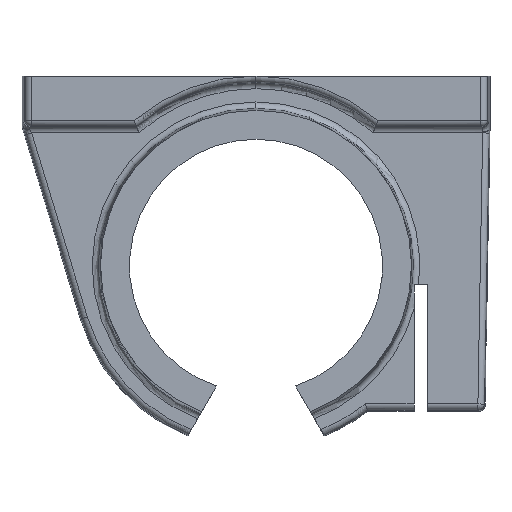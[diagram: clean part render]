
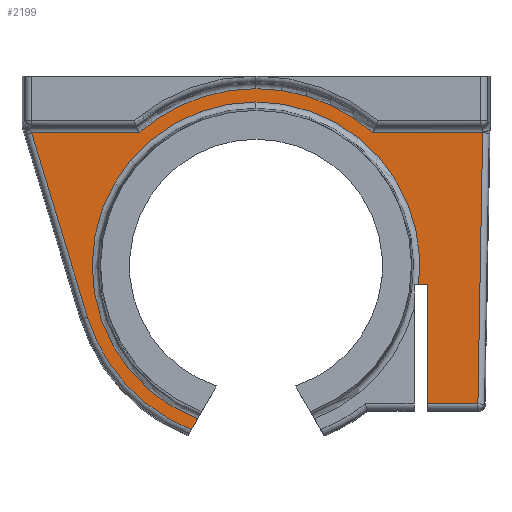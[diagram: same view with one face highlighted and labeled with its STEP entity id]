
A CAD part, front view. The second image highlights one B-rep face of the part: STEP entity #2199.
In plain terms, the highlighted planar face has unit normal (0, -1, 0).
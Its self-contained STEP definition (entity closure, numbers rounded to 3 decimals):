
#116 = CIRCLE ( 'NONE', #4380, 28. ) ;
#158 = DIRECTION ( 'NONE',  ( -1., 0., 0. ) ) ;
#161 = EDGE_CURVE ( 'NONE', #1258, #1753, #1177, .T. ) ;
#402 = ORIENTED_EDGE ( 'NONE', *, *, #4254, .T. ) ;
#422 = VECTOR ( 'NONE', #681, 1000. ) ;
#485 = DIRECTION ( 'NONE',  ( 0.017, 0., 1. ) ) ;
#495 = DIRECTION ( 'NONE',  ( 0., 1., 0. ) ) ;
#498 = VERTEX_POINT ( 'NONE', #2156 ) ;
#510 = CARTESIAN_POINT ( 'NONE',  ( 3.539, -10., -30.043 ) ) ;
#530 = ORIENTED_EDGE ( 'NONE', *, *, #1273, .T. ) ;
#561 = CARTESIAN_POINT ( 'NONE',  ( 0., -10., -28. ) ) ;
#681 = DIRECTION ( 'NONE',  ( -1., 0., 0. ) ) ;
#709 = AXIS2_PLACEMENT_3D ( 'NONE', #3072, #1979, #4512 ) ;
#715 = AXIS2_PLACEMENT_3D ( 'NONE', #3803, #2364, #3766 ) ;
#729 = LINE ( 'NONE', #1465, #2719 ) ;
#746 = EDGE_CURVE ( 'NONE', #498, #2853, #3226, .T. ) ;
#751 = CARTESIAN_POINT ( 'NONE',  ( 27.15, -10., -49.843 ) ) ;
#841 = LINE ( 'NONE', #3545, #4555 ) ;
#874 = ORIENTED_EDGE ( 'NONE', *, *, #161, .T. ) ;
#885 = ORIENTED_EDGE ( 'NONE', *, *, #1917, .T. ) ;
#1009 = CARTESIAN_POINT ( 'NONE',  ( -18.52, -10., -7. ) ) ;
#1031 = VERTEX_POINT ( 'NONE', #751 ) ;
#1052 = CARTESIAN_POINT ( 'NONE',  ( 18.52, -10., -7. ) ) ;
#1098 = EDGE_CURVE ( 'NONE', #1031, #1984, #729, .T. ) ;
#1139 = LINE ( 'NONE', #510, #2915 ) ;
#1146 = EDGE_CURVE ( 'NONE', #4170, #498, #1324, .T. ) ;
#1161 = DIRECTION ( 'NONE',  ( 0., 0., 1. ) ) ;
#1177 = LINE ( 'NONE', #1512, #2575 ) ;
#1205 = ORIENTED_EDGE ( 'NONE', *, *, #4471, .T. ) ;
#1222 = DIRECTION ( 'NONE',  ( 0., -1., 0. ) ) ;
#1258 = VERTEX_POINT ( 'NONE', #4419 ) ;
#1266 = DIRECTION ( 'NONE',  ( -1., 0., 0. ) ) ;
#1273 = EDGE_CURVE ( 'NONE', #4441, #2687, #3923, .T. ) ;
#1299 = CARTESIAN_POINT ( 'NONE',  ( -9.247, -10., -52.189 ) ) ;
#1301 = EDGE_CURVE ( 'NONE', #1753, #4441, #116, .T. ) ;
#1304 = VECTOR ( 'NONE', #485, 1000. ) ;
#1324 = CIRCLE ( 'NONE', #4186, 25.896 ) ;
#1329 = CARTESIAN_POINT ( 'NONE',  ( -10.232, -10., -53.895 ) ) ;
#1376 = VECTOR ( 'NONE', #1266, 1000. ) ;
#1462 = LINE ( 'NONE', #3839, #422 ) ;
#1465 = CARTESIAN_POINT ( 'NONE',  ( 36.043, -10., -49.843 ) ) ;
#1491 = VERTEX_POINT ( 'NONE', #1843 ) ;
#1512 = CARTESIAN_POINT ( 'NONE',  ( 18.894, -10., -7. ) ) ;
#1611 = VECTOR ( 'NONE', #4392, 1000. ) ;
#1621 = CARTESIAN_POINT ( 'NONE',  ( -35.486, -10., -7. ) ) ;
#1687 = DIRECTION ( 'NONE',  ( 0., -1., 0. ) ) ;
#1693 = VERTEX_POINT ( 'NONE', #1621 ) ;
#1753 = VERTEX_POINT ( 'NONE', #1052 ) ;
#1843 = CARTESIAN_POINT ( 'NONE',  ( -26.639, -10., -36.1 ) ) ;
#1865 = EDGE_CURVE ( 'NONE', #2687, #1693, #1462, .T. ) ;
#1872 = CARTESIAN_POINT ( 'NONE',  ( 0., -10., -28. ) ) ;
#1876 = ORIENTED_EDGE ( 'NONE', *, *, #1146, .T. ) ;
#1882 = CARTESIAN_POINT ( 'NONE',  ( 35.077, -10., -49.843 ) ) ;
#1917 = EDGE_CURVE ( 'NONE', #1984, #1258, #4028, .T. ) ;
#1951 = EDGE_CURVE ( 'NONE', #2226, #4170, #1139, .T. ) ;
#1961 = DIRECTION ( 'NONE',  ( 0., 0., 1. ) ) ;
#1979 = DIRECTION ( 'NONE',  ( 0., 1., 0. ) ) ;
#1984 = VERTEX_POINT ( 'NONE', #1882 ) ;
#2022 = DIRECTION ( 'NONE',  ( 0., 1., 0. ) ) ;
#2048 = CARTESIAN_POINT ( 'NONE',  ( 0., -10., -28. ) ) ;
#2156 = CARTESIAN_POINT ( 'NONE',  ( 0., -10., -2.104 ) ) ;
#2182 = ORIENTED_EDGE ( 'NONE', *, *, #1865, .T. ) ;
#2199 = ADVANCED_FACE ( 'NONE', ( #3092 ), #4470, .F. ) ;
#2226 = VERTEX_POINT ( 'NONE', #1329 ) ;
#2258 = CARTESIAN_POINT ( 'NONE',  ( 0., -10., -28. ) ) ;
#2364 = DIRECTION ( 'NONE',  ( 0., -1., 0. ) ) ;
#2573 = CARTESIAN_POINT ( 'NONE',  ( 35.833, -10., -6.554 ) ) ;
#2575 = VECTOR ( 'NONE', #158, 1000. ) ;
#2586 = CARTESIAN_POINT ( 'NONE',  ( -26.639, -10., -36.1 ) ) ;
#2657 = CARTESIAN_POINT ( 'NONE',  ( 27.15, -10., -31. ) ) ;
#2687 = VERTEX_POINT ( 'NONE', #1009 ) ;
#2719 = VECTOR ( 'NONE', #3531, 1000. ) ;
#2764 = ORIENTED_EDGE ( 'NONE', *, *, #746, .T. ) ;
#2853 = VERTEX_POINT ( 'NONE', #3209 ) ;
#2915 = VECTOR ( 'NONE', #3677, 1000. ) ;
#2953 = DIRECTION ( 'NONE',  ( 0., 0., 1. ) ) ;
#2975 = LINE ( 'NONE', #2586, #1611 ) ;
#2987 = LINE ( 'NONE', #4059, #1376 ) ;
#3001 = CIRCLE ( 'NONE', #715, 27.843 ) ;
#3047 = ORIENTED_EDGE ( 'NONE', *, *, #3133, .F. ) ;
#3072 = CARTESIAN_POINT ( 'NONE',  ( 0., -10., -28. ) ) ;
#3092 = FACE_OUTER_BOUND ( 'NONE', #3373, .T. ) ;
#3109 = ORIENTED_EDGE ( 'NONE', *, *, #1951, .T. ) ;
#3133 = EDGE_CURVE ( 'NONE', #3864, #2853, #2987, .T. ) ;
#3157 = AXIS2_PLACEMENT_3D ( 'NONE', #561, #2022, #1961 ) ;
#3209 = CARTESIAN_POINT ( 'NONE',  ( 25.721, -10., -31. ) ) ;
#3226 = CIRCLE ( 'NONE', #3157, 25.896 ) ;
#3254 = AXIS2_PLACEMENT_3D ( 'NONE', #2258, #1222, #4341 ) ;
#3373 = EDGE_LOOP ( 'NONE', ( #4424, #3565, #885, #874, #3418, #530, #2182, #1205, #402, #3109, #1876, #2764, #3047 ) ) ;
#3396 = EDGE_CURVE ( 'NONE', #1031, #3864, #841, .T. ) ;
#3418 = ORIENTED_EDGE ( 'NONE', *, *, #1301, .T. ) ;
#3531 = DIRECTION ( 'NONE',  ( 1., 0., 0. ) ) ;
#3545 = CARTESIAN_POINT ( 'NONE',  ( 27.15, -10., -28. ) ) ;
#3565 = ORIENTED_EDGE ( 'NONE', *, *, #1098, .T. ) ;
#3677 = DIRECTION ( 'NONE',  ( 0.5, 0., 0.866 ) ) ;
#3766 = DIRECTION ( 'NONE',  ( 0., 0., 1. ) ) ;
#3803 = CARTESIAN_POINT ( 'NONE',  ( 0., -10., -28. ) ) ;
#3839 = CARTESIAN_POINT ( 'NONE',  ( -36.815, -10., -7. ) ) ;
#3864 = VERTEX_POINT ( 'NONE', #2657 ) ;
#3923 = CIRCLE ( 'NONE', #3254, 28. ) ;
#4028 = LINE ( 'NONE', #2573, #1304 ) ;
#4059 = CARTESIAN_POINT ( 'NONE',  ( 0., -10., -31. ) ) ;
#4091 = CARTESIAN_POINT ( 'NONE',  ( 0., -10., 0. ) ) ;
#4170 = VERTEX_POINT ( 'NONE', #1299 ) ;
#4186 = AXIS2_PLACEMENT_3D ( 'NONE', #1872, #495, #2953 ) ;
#4254 = EDGE_CURVE ( 'NONE', #1491, #2226, #3001, .T. ) ;
#4341 = DIRECTION ( 'NONE',  ( 0., 0., 1. ) ) ;
#4380 = AXIS2_PLACEMENT_3D ( 'NONE', #2048, #1687, #4502 ) ;
#4392 = DIRECTION ( 'NONE',  ( 0.291, 0., -0.957 ) ) ;
#4419 = CARTESIAN_POINT ( 'NONE',  ( 35.825, -10., -7. ) ) ;
#4424 = ORIENTED_EDGE ( 'NONE', *, *, #3396, .F. ) ;
#4441 = VERTEX_POINT ( 'NONE', #4091 ) ;
#4470 = PLANE ( 'NONE',  #709 ) ;
#4471 = EDGE_CURVE ( 'NONE', #1693, #1491, #2975, .T. ) ;
#4502 = DIRECTION ( 'NONE',  ( 0., 0., 1. ) ) ;
#4512 = DIRECTION ( 'NONE',  ( 0., 0., 1. ) ) ;
#4555 = VECTOR ( 'NONE', #1161, 1000. ) ;
